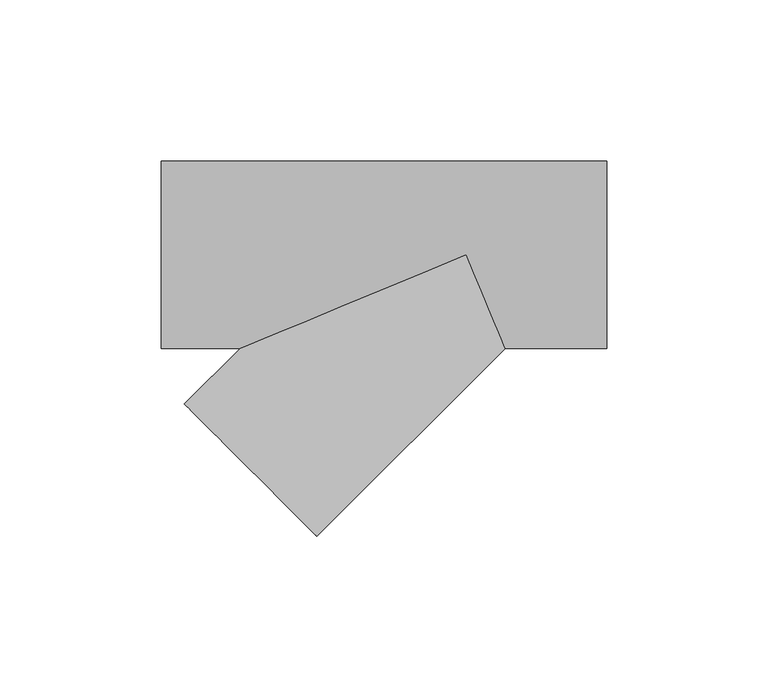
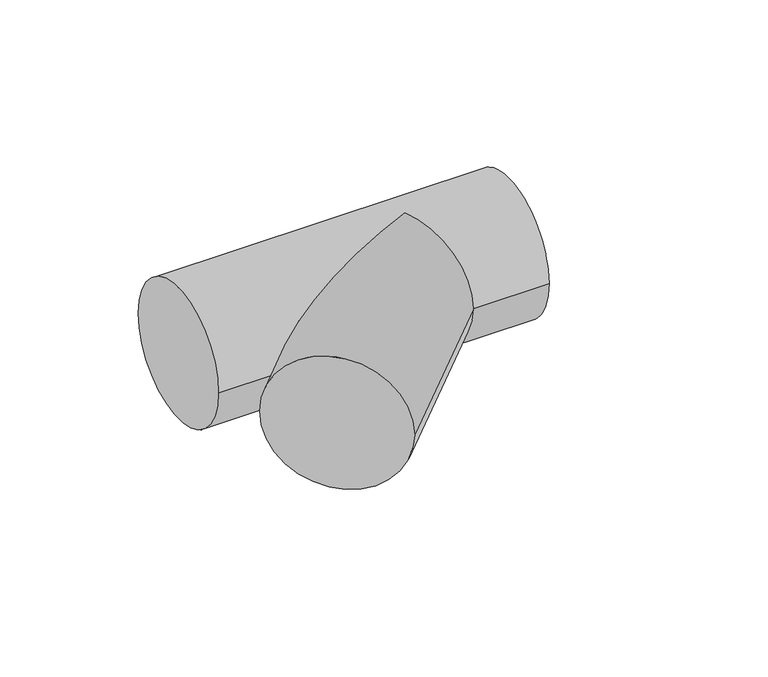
"""IFC4 building model written with IfcOpenShell, lengths in millimetres: pipe fitting geometry, 010513441 : Tê a 45º."""

from ifc_helpers import new_model, si_unit, frame, origin, place, context, project, spatial, circle_curve, ellipse_curve, source, transform, mapped, element, save
from ifc_brep_helpers import plane_surface, cylinder_surface, advanced_brep


def pipe_fitting_68db8d38(model_context):
    return source(origin(), model_context, "Body", "AdvancedBrep", [
        advanced_brep(
        [(-94.5, -29.0, 0.0), (-94.5, 29.0, 0.0), (43.5, -29.0, 0.0), (43.5, 29.0, 0.0), (-70.0121933, -29.0, 0.0), (0.0, 0.0, 29.0), (12.0121933, -29.0, 0.0), (0.0, 0.0, -29.0), (-87.3276875, -46.3154942, 0.0), (-46.3154942, -87.3276875, 0.0)],
        [
            (0, 1, circle_curve(frame((-94.5, 0.0, 0.0), z_axis=(-1.0, 0.0, 0.0), x_axis=(0.0, 1.0, 0.0)), 29.0)),
            (1, 0, circle_curve(frame((-94.5, 0.0, 0.0), z_axis=(-1.0, 0.0, 0.0), x_axis=(0.0, 1.0, 0.0)), 29.0)),
            (2, 3, circle_curve(frame((43.5, 0.0, 0.0), z_axis=(1.0, 0.0, 0.0), x_axis=(0.0, 1.0, 0.0)), 29.0)),
            (3, 2, circle_curve(frame((43.5, 0.0, 0.0), z_axis=(1.0, 0.0, 0.0), x_axis=(0.0, 1.0, 0.0)), 29.0)),
            (0, 4),
            (4, 5, ellipse_curve(frame((0.0, 0.0, 0.0), z_axis=(-0.3826834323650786, 0.9238795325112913, 0.0), x_axis=(-0.9238795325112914, -0.38268343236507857, 0.0)), 75.780652, 29.0)),
            (5, 6, ellipse_curve(frame((0.0, 0.0, 0.0), z_axis=(0.9238795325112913, 0.3826834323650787, 0.0), x_axis=(-0.3826834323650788, 0.9238795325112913, 0.0)), 31.3893738, 29.0)),
            (6, 2),
            (3, 1),
            (6, 7, ellipse_curve(frame((0.0, 0.0, 0.0), z_axis=(0.9238795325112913, 0.3826834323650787, 0.0), x_axis=(-0.3826834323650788, 0.9238795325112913, 0.0)), 31.3893738, 29.0)),
            (7, 4, ellipse_curve(frame((0.0, 0.0, 0.0), z_axis=(-0.3826834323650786, 0.9238795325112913, 0.0), x_axis=(-0.9238795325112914, -0.38268343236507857, 0.0)), 75.780652, 29.0)),
            (8, 9, circle_curve(frame((-66.8215908, -66.8215908, 0.0), z_axis=(-0.7071067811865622, -0.7071067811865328, 0.0), x_axis=(0.7071067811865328, -0.7071067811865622, 0.0)), 29.0)),
            (9, 8, circle_curve(frame((-66.8215908, -66.8215908, 0.0), z_axis=(-0.7071067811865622, -0.7071067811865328, 0.0), x_axis=(0.7071067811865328, -0.7071067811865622, 0.0)), 29.0)),
            (9, 6),
            (4, 8),
        ],
        [
            plane_surface(frame((-94.5, 0.0, 0.0), z_axis=(-1.0, 0.0, 0.0), x_axis=(0.0, 0.0, 1.0))),
            plane_surface(frame((43.5, 0.0, 0.0), z_axis=(1.0, 0.0, 0.0), x_axis=(0.0, 0.0, 1.0))),
            cylinder_surface(frame((-94.5, 0.0, 0.0), z_axis=(-1.0, 0.0, 0.0), x_axis=(0.0, 1.0, 0.0)), 29.0),
            plane_surface(frame((-66.8215908, -66.8215908, 0.0), z_axis=(-0.7071067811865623, -0.7071067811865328, 0.0), x_axis=(0.0, 0.0, 1.0))),
            cylinder_surface(frame((0.0, 0.0, 0.0), z_axis=(0.7071067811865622, 0.7071067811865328, 0.0), x_axis=(0.7071067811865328, -0.7071067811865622, 0.0)), 29.0),
        ],
        [
            (0, [[1, 2]]),
            (1, [[3, 4]]),
            (2, [[-1, 5, 6, 7, 8, -4, 9]]),
            (2, [[-2, -9, -3, -8, 10, 11, -5]]),
            (3, [[12, 13]]),
            (4, [[-13, 14, -7, -6, 15]]),
            (4, [[-12, -15, -11, -10, -14]]),
        ],
    ),
    ])


if __name__ == "__main__":
    model = new_model("IFC4")
    model_context = context("Model", 3, world=origin())
    ifc_project = project(units=[si_unit("LENGTHUNIT", "METRE", prefix="MILLI")], contexts=[model_context])
    site = spatial("IfcSite", under=ifc_project)
    building = spatial("IfcBuilding", under=site)
    placement = place(None, origin())
    pipe_fitting_shape = pipe_fitting_68db8d38(model_context)
    element("IfcPipeFitting", 1, ObjectType="010513441 : Tê a 45º", at=placement, inside=building, context=model_context, shape_type="MappedRepresentation", body=[
        mapped(pipe_fitting_shape, transform((0.0, 0.0, 0.0), x_axis=(1.0, 0.0, 0.0), y_axis=(0.0, 1.0, 0.0), z_axis=(0.0, 0.0, 1.0))),
    ])
    save(model, "model.ifc")
